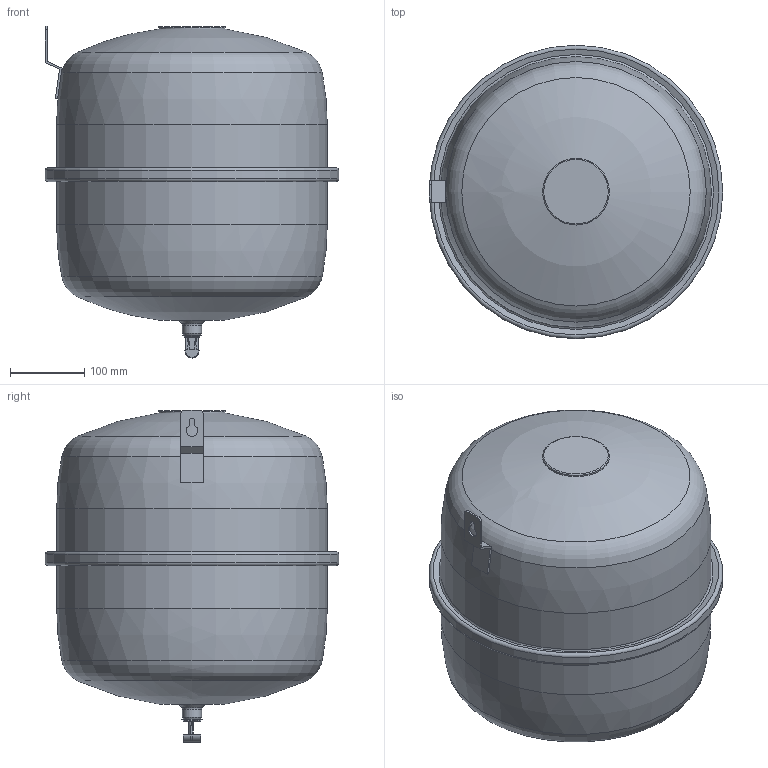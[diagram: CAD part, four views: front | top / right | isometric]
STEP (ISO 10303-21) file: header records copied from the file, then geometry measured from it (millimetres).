
FILE_DESCRIPTION(/* description */ (''),/* implementation_level */ '2;1');
FILE_NAME(/* name */ '\\dataserver\data\Flamco\3D-Modellen\Inventor\Airfix\Airfix A\24659_airfix_a_35l_8_4.stp',/* time_stamp */ '2025-03-17T13:51:29+01:00',/* author */ ('kasius'),/* organization */ (''),/* preprocessor_version */ 'ST-DEVELOPER v18.1',/* originating_system */ 'Autodesk Inventor 2021',/* authorisation */ '');
FILE_SCHEMA (('AUTOMOTIVE_DESIGN { 1 0 10303 214 3 1 1 }'));
Length unit declared in the file: millimetre
Products named in the file (1): 24659_airfix_a_35l_8_4
Bounding box: 396 x 396 x 447.92 mm (x, y, z)
Volume: 36214573.9 mm3; surface area: 618493.5 mm2
Topology: 3 solids, 3 shells, 133 faces, 369 edges, 249 vertices
Faces by surface type: plane 90, cylinder 22, cone 9, torus 8, bspline 2, sphere 2
Full cylindrical faces by diameter (mm): 7 x1, 8.8 x1, 9 x1, 12.5 x1, 16 x1, 18 x1, 20 x1, 20.8 x1, 26 x1, 90 x1, 365 x2, 396 x1
Entity records: 4476 total; most frequent: CARTESIAN_POINT 804, DIRECTION 764, ORIENTED_EDGE 738, EDGE_CURVE 369, AXIS2_PLACEMENT_3D 263, VERTEX_POINT 249, LINE 238, VECTOR 238
